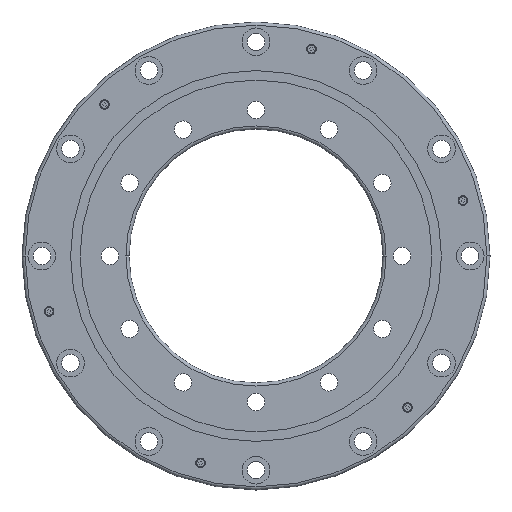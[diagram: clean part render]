
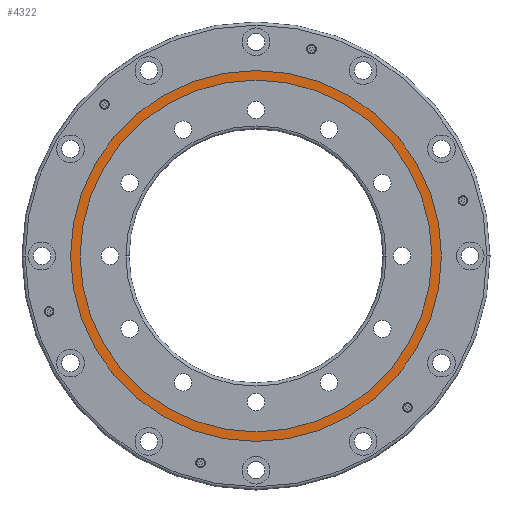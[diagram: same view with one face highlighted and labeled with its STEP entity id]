
A CAD part, front view. The second image highlights one B-rep face of the part: STEP entity #4322.
In plain terms, the highlighted planar face has unit normal (0, -1, 0).
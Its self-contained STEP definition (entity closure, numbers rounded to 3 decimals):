
#3147=CARTESIAN_POINT('POINT215',(110.875,0.001,
   0.));
#3148=VERTEX_POINT('VERTEX215',#3147);
#3156=CARTESIAN_POINT('POINT216',(-110.875,0.001,
   0.));
#3157=VERTEX_POINT('VERTEX216',#3156);
#3164=CARTESIAN_POINT('POS344',(0.,0.001,0.
   ));
#3165=DIRECTION('DIR491',(0.,-1.,0.));
#3166=DIRECTION('DIR492',(1.,0.,
   0.));
#3167=AXIS2_PLACEMENT_3D('AXIS148',#3164,#3165,#3166);
#3168=CIRCLE('ELLIPSE60',#3167,110.875);
#3169=EDGE_CURVE('EDGE307',#3157,#3148,#3168,.T.);
#3180=EDGE_CURVE('EDGE308',#3148,#3157,#3168,.T.);
#4298=ORIENTED_EDGE('COEDGE737',*,*,#3180,.F.);
#4299=ORIENTED_EDGE('COEDGE738',*,*,#3169,.F.);
#4300=EDGE_LOOP('NONE',(#4298,#4299));
#4301=FACE_BOUND('LOOP1',#4300,.T.);
#4302=CARTESIAN_POINT('POINT267',(116.874,0.001,
   0.));
#4303=VERTEX_POINT('VERTEX267',#4302);
#4304=CARTESIAN_POINT('POINT268',(-116.874,0.001,
   0.));
#4305=VERTEX_POINT('VERTEX268',#4304);
#4306=CARTESIAN_POINT('POS468',(0.,0.001,0.
   ));
#4307=DIRECTION('DIR667',(0.,-1.,
   0.));
#4308=DIRECTION('DIR668',(1.,0.,
   0.));
#4309=AXIS2_PLACEMENT_3D('AXIS200',#4306,#4307,#4308);
#4310=CIRCLE('ELLIPSE68',#4309,116.874);
#4311=EDGE_CURVE('EDGE395',#4303,#4305,#4310,.T.);
#4312=ORIENTED_EDGE('COEDGE739',*,*,#4311,.T.);
#4313=EDGE_CURVE('EDGE396',#4305,#4303,#4310,.T.);
#4314=ORIENTED_EDGE('COEDGE740',*,*,#4313,.T.);
#4315=EDGE_LOOP('NONE',(#4312,#4314));
#4316=FACE_BOUND('LOOP1',#4315,.T.);
#4317=CARTESIAN_POINT('POS469',(113.875,0.001,
   0.));
#4318=DIRECTION('DIR669',(0.,-1.,0.));
#4319=DIRECTION('DIR670',(1.,0.,0.));
#4320=AXIS2_PLACEMENT_3D('AXIS201',#4317,#4318,#4319);
#4321=PLANE('PLANE105',#4320);
#4322=ADVANCED_FACE('FACE161',(#4301,#4316),#4321,.T.);
